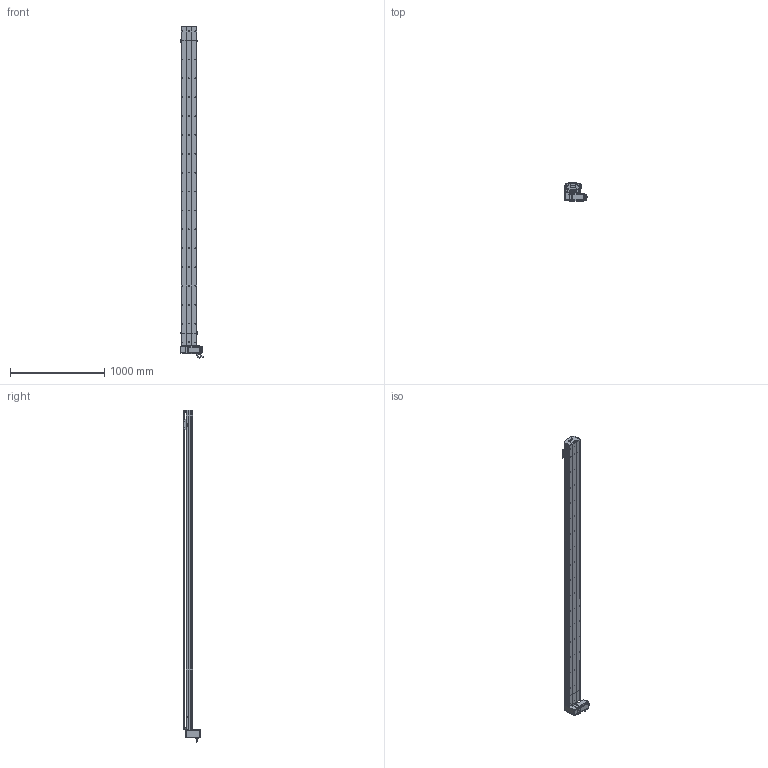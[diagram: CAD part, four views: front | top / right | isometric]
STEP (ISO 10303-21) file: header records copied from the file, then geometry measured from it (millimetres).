
FILE_DESCRIPTION (( 'STEP AP214' ), '1' );
FILE_NAME ('D17 TBN RU S3100.STEP', '2010-06-30T13:30:12', ( 'Conseil Régional Haute-Normandie' ), ( 'Conseil Régional Haute-Normandie' ), 'SwSTEP 2.0', 'SolidWorks 2010', '' );
FILE_SCHEMA (( 'AUTOMOTIVE_DESIGN' ));
Length unit declared in the file: millimetre
Products named in the file (40): Moteur motionking 90BLDC125A-640; Renvoi RU_Default; avant 90BLDC125A-640; cache arbre D17_Default; Vis M5 L16-2_Default; vis M5 L16_Default; Plaque racord D17_Default; vis M5 L70_Default; Conecteur_Default; Conecteur2_Default; codeur 90BLDC125-640; corps 90BLDC125A-640; Tail D17B+100_Default; guide D17; Chariot D17 TBN; chariot D17 TBN; vis M5 L25_Default; vis M5 L12_Default; vis M5 L8 90°_Default; couvercle D17B_Default; Couroie tail D17B_Default; poulie tail_Default; plaque de  bout tail D17B_Default; tete d''axe poulie D17B; corp tail D17B+100_Default; Rail D17B; course 3100 D17B_Default; D17 TBN RU S3100; couvercle D17B course L3100_Default; corp D17B 3100_Default; Couroie+ rail D17 Course 3100 ; couvercle D17B head_Default; corpl head D17 _Default; Head RU D17B_Default; cache D17_Default; Arbre+rail head D17B; plaque de  bout head D17B RU_Default; couroie head D17_Default; poulie head_Default; vis M5 L5_Default
Assembly tree (66 placements, depth 4):
  D17 TBN RU S3100
    course 3100 D17B_Default
      corp D17B 3100_Default
      Couroie+ rail D17 Course 3100 
      couvercle D17B course L3100_Default
    chariot D17 TBN
      Chariot D17 TBN
      guide D17  x2
    Head RU D17B_Default
      vis M5 L12_Default  x8
      vis M5 L16_Default  x2
      Vis M5 L16-2_Default  x4
      corpl head D17 _Default
      vis M5 L5_Default  x4
      vis M5 L70_Default  x4
      vis M5 L25_Default  x2
      cache arbre D17_Default
      couroie head D17_Default
      cache D17_Default  x2
      plaque de  bout head D17B RU_Default
      Moteur motionking 90BLDC125A-640
        avant 90BLDC125A-640
        Conecteur_Default
        codeur 90BLDC125-640
        corps 90BLDC125A-640
        Conecteur2_Default
      poulie head_Default
      Plaque racord D17_Default
      couvercle D17B head_Default
      Renvoi RU_Default
      Arbre+rail head D17B
    Tail D17B+100_Default
      couvercle D17B_Default
      vis M5 L12_Default  x4
      plaque de  bout tail D17B_Default
      poulie tail_Default
      tete d''axe poulie D17B
      corp tail D17B+100_Default
      vis M5 L8 90°_Default  x2
      vis M5 L25_Default  x2
      Rail D17B
      Couroie tail D17B_Default
Bounding box: 245.2 x 188.65 x 3517.95 mm (x, y, z)
Volume: 19834778.8 mm3; surface area: 5803183 mm2
Topology: 89 solids, 89 shells, 2667 faces, 6887 edges, 4438 vertices
Faces by surface type: plane 1537, cylinder 833, bspline 136, cone 80, torus 77, sphere 4
Entity records: 87117 total; most frequent: CARTESIAN_POINT 25749, ORIENTED_EDGE 10946, DIRECTION 10318, EDGE_CURVE 5473, VERTEX_POINT 3582, LINE 3556, VECTOR 3556, AXIS2_PLACEMENT_3D 3381
